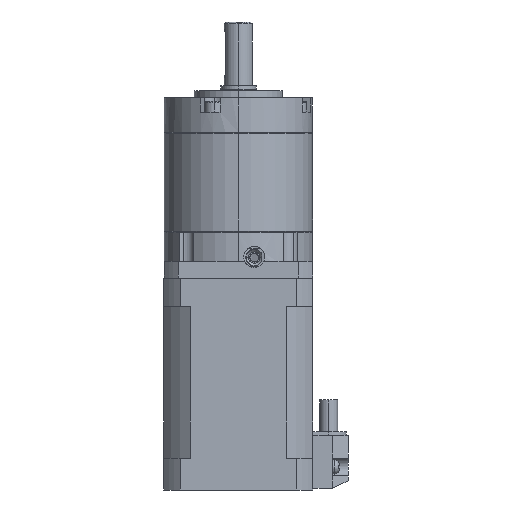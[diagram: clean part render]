
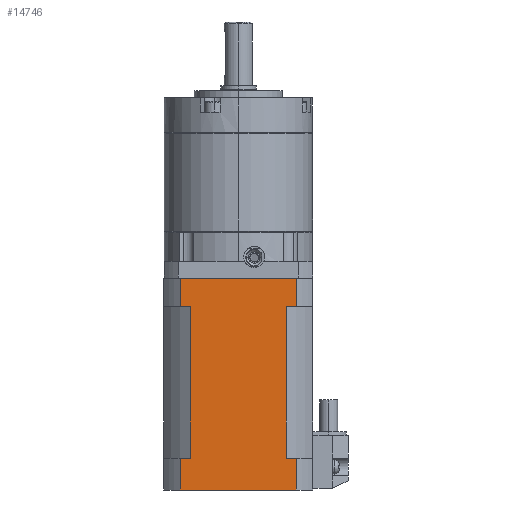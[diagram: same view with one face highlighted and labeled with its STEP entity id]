
A CAD part, left-side view. The second image highlights one B-rep face of the part: STEP entity #14746.
In plain terms, the highlighted planar face has unit normal (-1, 0, 0).
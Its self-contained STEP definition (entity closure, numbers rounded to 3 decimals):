
#128 = DIRECTION ( 'NONE',  ( 0., 0., -1. ) ) ;
#142 = LINE ( 'NONE', #8554, #9599 ) ;
#242 = DIRECTION ( 'NONE',  ( 0., 0., -1. ) ) ;
#354 = EDGE_CURVE ( 'NONE', #7637, #8108, #12653, .T. ) ;
#367 = VECTOR ( 'NONE', #11467, 1000. ) ;
#545 = EDGE_LOOP ( 'NONE', ( #13187, #13702, #4887, #14412, #11915, #12959, #15298, #1189, #7970, #15292, #12837, #14235 ) ) ;
#923 = LINE ( 'NONE', #8868, #13627 ) ;
#1189 = ORIENTED_EDGE ( 'NONE', *, *, #12011, .F. ) ;
#1564 = EDGE_CURVE ( 'NONE', #4685, #5635, #15293, .T. ) ;
#1614 = DIRECTION ( 'NONE',  ( 0., -1., 0. ) ) ;
#1714 = CARTESIAN_POINT ( 'NONE',  ( -21.1, 0., 52. ) ) ;
#2079 = PLANE ( 'NONE',  #5079 ) ;
#2135 = CARTESIAN_POINT ( 'NONE',  ( -21.1, 0., 60. ) ) ;
#2174 = LINE ( 'NONE', #2176, #14485 ) ;
#2176 = CARTESIAN_POINT ( 'NONE',  ( -21.1, -16.442, 60. ) ) ;
#2400 = VERTEX_POINT ( 'NONE', #8285 ) ;
#2583 = VECTOR ( 'NONE', #11762, 1000. ) ;
#2798 = VECTOR ( 'NONE', #13219, 1000. ) ;
#3327 = DIRECTION ( 'NONE',  ( 1., 0., 0. ) ) ;
#3386 = DIRECTION ( 'NONE',  ( 0., 0., -1. ) ) ;
#3843 = DIRECTION ( 'NONE',  ( 0., -1., 0. ) ) ;
#4158 = CARTESIAN_POINT ( 'NONE',  ( -21.1, 13.594, 52. ) ) ;
#4193 = VECTOR ( 'NONE', #3843, 1000. ) ;
#4442 = EDGE_CURVE ( 'NONE', #11040, #7637, #10257, .T. ) ;
#4685 = VERTEX_POINT ( 'NONE', #11606 ) ;
#4887 = ORIENTED_EDGE ( 'NONE', *, *, #11018, .F. ) ;
#5010 = CARTESIAN_POINT ( 'NONE',  ( -21.1, 13.594, 52. ) ) ;
#5079 = AXIS2_PLACEMENT_3D ( 'NONE', #2135, #3327, #11985 ) ;
#5241 = CARTESIAN_POINT ( 'NONE',  ( -21.1, 0., 52. ) ) ;
#5390 = DIRECTION ( 'NONE',  ( 0., 0., -1. ) ) ;
#5577 = CARTESIAN_POINT ( 'NONE',  ( -21.1, -13.594, 52. ) ) ;
#5592 = DIRECTION ( 'NONE',  ( 0., -1., 0. ) ) ;
#5635 = VERTEX_POINT ( 'NONE', #7577 ) ;
#5707 = EDGE_CURVE ( 'NONE', #15717, #12706, #14758, .T. ) ;
#6059 = VECTOR ( 'NONE', #5592, 1000. ) ;
#6324 = EDGE_CURVE ( 'NONE', #4685, #12419, #10349, .T. ) ;
#6328 = EDGE_CURVE ( 'NONE', #12706, #14008, #6653, .T. ) ;
#6585 = CARTESIAN_POINT ( 'NONE',  ( -21.1, 16.442, 52. ) ) ;
#6653 = LINE ( 'NONE', #4158, #7051 ) ;
#6970 = VECTOR ( 'NONE', #128, 1000. ) ;
#7051 = VECTOR ( 'NONE', #5390, 1000. ) ;
#7577 = CARTESIAN_POINT ( 'NONE',  ( -21.1, -13.594, 9. ) ) ;
#7637 = VERTEX_POINT ( 'NONE', #8867 ) ;
#7672 = CARTESIAN_POINT ( 'NONE',  ( -21.1, 16.442, 9. ) ) ;
#7970 = ORIENTED_EDGE ( 'NONE', *, *, #4442, .T. ) ;
#8108 = VERTEX_POINT ( 'NONE', #11904 ) ;
#8285 = CARTESIAN_POINT ( 'NONE',  ( -21.1, 16.442, 60. ) ) ;
#8554 = CARTESIAN_POINT ( 'NONE',  ( -21.1, 0., 9. ) ) ;
#8632 = EDGE_CURVE ( 'NONE', #12257, #8108, #2174, .T. ) ;
#8821 = VERTEX_POINT ( 'NONE', #11174 ) ;
#8867 = CARTESIAN_POINT ( 'NONE',  ( -21.1, 16.442, 0. ) ) ;
#8868 = CARTESIAN_POINT ( 'NONE',  ( -21.1, -16.442, 60. ) ) ;
#9572 = VECTOR ( 'NONE', #11580, 1000. ) ;
#9599 = VECTOR ( 'NONE', #14743, 1000. ) ;
#9857 = EDGE_CURVE ( 'NONE', #2400, #8821, #13659, .T. ) ;
#10257 = LINE ( 'NONE', #12402, #6970 ) ;
#10349 = LINE ( 'NONE', #1714, #9572 ) ;
#10424 = CARTESIAN_POINT ( 'NONE',  ( -21.1, -16.442, 9. ) ) ;
#11018 = EDGE_CURVE ( 'NONE', #8821, #12419, #923, .T. ) ;
#11040 = VERTEX_POINT ( 'NONE', #7672 ) ;
#11109 = FACE_OUTER_BOUND ( 'NONE', #545, .T. ) ;
#11174 = CARTESIAN_POINT ( 'NONE',  ( -21.1, -16.442, 60. ) ) ;
#11268 = CARTESIAN_POINT ( 'NONE',  ( -21.1, 0., 60. ) ) ;
#11467 = DIRECTION ( 'NONE',  ( 0., 0., -1. ) ) ;
#11568 = CARTESIAN_POINT ( 'NONE',  ( -21.1, 0., 0. ) ) ;
#11580 = DIRECTION ( 'NONE',  ( 0., -1., 0. ) ) ;
#11606 = CARTESIAN_POINT ( 'NONE',  ( -21.1, -13.594, 52. ) ) ;
#11762 = DIRECTION ( 'NONE',  ( 0., 0., -1. ) ) ;
#11904 = CARTESIAN_POINT ( 'NONE',  ( -21.1, -16.442, 0. ) ) ;
#11915 = ORIENTED_EDGE ( 'NONE', *, *, #12900, .T. ) ;
#11985 = DIRECTION ( 'NONE',  ( 0., 1., 0. ) ) ;
#12011 = EDGE_CURVE ( 'NONE', #11040, #14008, #142, .T. ) ;
#12257 = VERTEX_POINT ( 'NONE', #10424 ) ;
#12402 = CARTESIAN_POINT ( 'NONE',  ( -21.1, 16.442, 60. ) ) ;
#12419 = VERTEX_POINT ( 'NONE', #14367 ) ;
#12653 = LINE ( 'NONE', #11568, #2798 ) ;
#12663 = LINE ( 'NONE', #14239, #6059 ) ;
#12706 = VERTEX_POINT ( 'NONE', #5010 ) ;
#12710 = LINE ( 'NONE', #13978, #367 ) ;
#12837 = ORIENTED_EDGE ( 'NONE', *, *, #8632, .F. ) ;
#12900 = EDGE_CURVE ( 'NONE', #2400, #15717, #12710, .T. ) ;
#12959 = ORIENTED_EDGE ( 'NONE', *, *, #5707, .T. ) ;
#13187 = ORIENTED_EDGE ( 'NONE', *, *, #1564, .F. ) ;
#13219 = DIRECTION ( 'NONE',  ( 0., -1., 0. ) ) ;
#13627 = VECTOR ( 'NONE', #242, 1000. ) ;
#13659 = LINE ( 'NONE', #11268, #4193 ) ;
#13702 = ORIENTED_EDGE ( 'NONE', *, *, #6324, .T. ) ;
#13978 = CARTESIAN_POINT ( 'NONE',  ( -21.1, 16.442, 60. ) ) ;
#14008 = VERTEX_POINT ( 'NONE', #15714 ) ;
#14235 = ORIENTED_EDGE ( 'NONE', *, *, #14626, .F. ) ;
#14239 = CARTESIAN_POINT ( 'NONE',  ( -21.1, 0., 9. ) ) ;
#14367 = CARTESIAN_POINT ( 'NONE',  ( -21.1, -16.442, 52. ) ) ;
#14383 = VECTOR ( 'NONE', #1614, 1000. ) ;
#14412 = ORIENTED_EDGE ( 'NONE', *, *, #9857, .F. ) ;
#14485 = VECTOR ( 'NONE', #3386, 1000. ) ;
#14626 = EDGE_CURVE ( 'NONE', #5635, #12257, #12663, .T. ) ;
#14743 = DIRECTION ( 'NONE',  ( 0., -1., 0. ) ) ;
#14746 = ADVANCED_FACE ( 'NONE', ( #11109 ), #2079, .F. ) ;
#14758 = LINE ( 'NONE', #5241, #14383 ) ;
#15292 = ORIENTED_EDGE ( 'NONE', *, *, #354, .T. ) ;
#15293 = LINE ( 'NONE', #5577, #2583 ) ;
#15298 = ORIENTED_EDGE ( 'NONE', *, *, #6328, .T. ) ;
#15714 = CARTESIAN_POINT ( 'NONE',  ( -21.1, 13.594, 9. ) ) ;
#15717 = VERTEX_POINT ( 'NONE', #6585 ) ;
